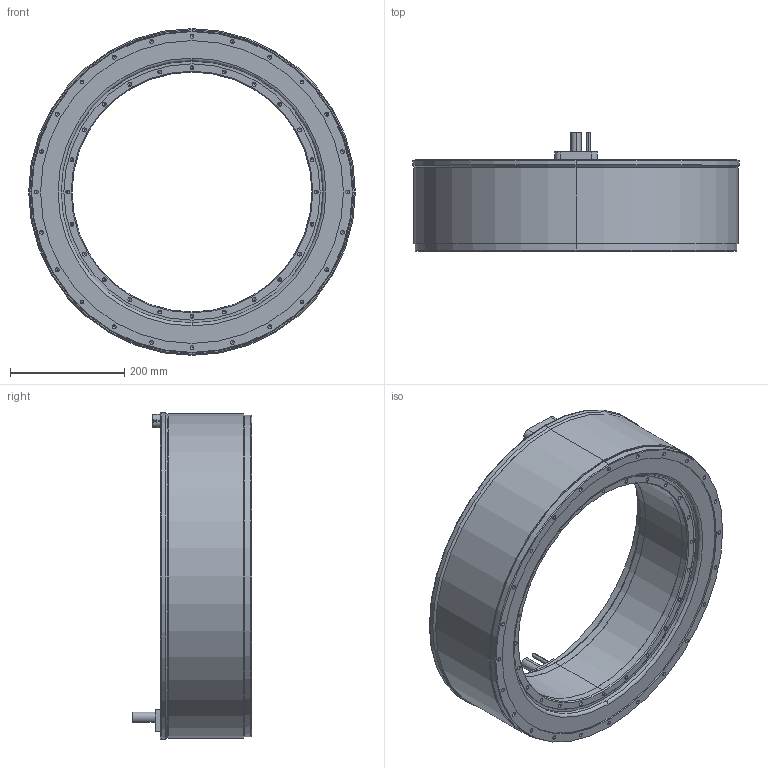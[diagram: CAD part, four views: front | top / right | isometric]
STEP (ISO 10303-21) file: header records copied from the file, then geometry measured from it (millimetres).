
FILE_DESCRIPTION (( 'STEP AP203' ), '1' );
FILE_NAME ('TM-2-GC-SD0(J0).STEP', '2023-06-06T03:48:31', ( '' ), ( '' ), 'SwSTEP 2.0', 'SolidWorks 2015', '' );
FILE_SCHEMA (( 'CONFIG_CONTROL_DESIGN' ));
Length unit declared in the file: millimetre
Products named in the file (3): TM-2-GC(J0)_Rotor; TM-2-GC-SD0(J0); TM-2-GC-SD0(J0)_Stator
Assembly tree (2 placements, depth 2):
  TM-2-GC-SD0(J0)
    TM-2-GC-SD0(J0)_Stator
    TM-2-GC(J0)_Rotor
Bounding box: 572 x 209 x 572 mm (x, y, z)
Volume: 16936840.7 mm3; surface area: 1133373.7 mm2
Topology: 2 solids, 2 shells, 553 faces, 1336 edges, 717 vertices
Faces by surface type: cylinder 253, cone 214, plane 74, torus 12
Entity records: 14977 total; most frequent: DIRECTION 2810, CARTESIAN_POINT 2417, ORIENTED_EDGE 2284, EDGE_CURVE 1142, AXIS2_PLACEMENT_3D 1110, VERTEX_POINT 717, EDGE_LOOP 681, VECTOR 590
